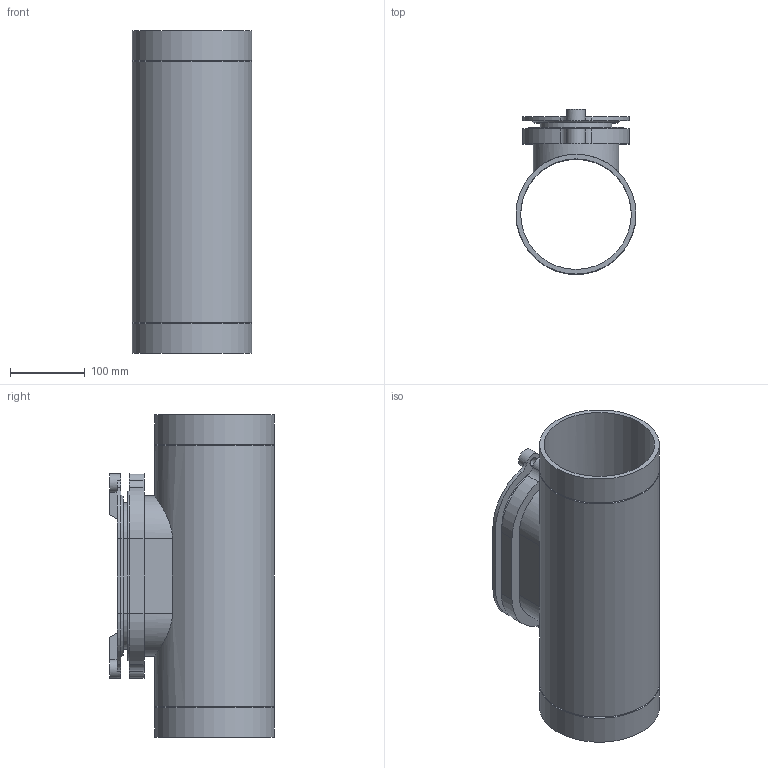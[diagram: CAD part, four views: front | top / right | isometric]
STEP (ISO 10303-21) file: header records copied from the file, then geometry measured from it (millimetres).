
FILE_DESCRIPTION(/* description */ (''),/* implementation_level */ '2;1');
FILE_NAME(/* name */ 'Z:\Geberit\Export\NewStep\369454.stp',/* time_stamp */ '2014-04-02T08:02:39+02:00',/* author */ ('Marco'),/* organization */ (''),/* preprocessor_version */ 'ST-DEVELOPER v15.2',/* originating_system */ 'Autodesk Inventor 2014',/* authorisation */ '');
FILE_SCHEMA (('AUTOMOTIVE_DESIGN { 1 0 10303 214 3 1 1 }'));
Length unit declared in the file: millimetre
Products named in the file (4): 853494; 853424; 853390; 369454
Bounding box: 160 x 220 x 430 mm (x, y, z)
Volume: 1826240.9 mm3; surface area: 627989.2 mm2
Topology: 3 solids, 3 shells, 121 faces, 314 edges, 202 vertices
Faces by surface type: plane 60, cylinder 49, cone 8, bspline 4
Full cylindrical faces by diameter (mm): 8.376 x2, 12 x2, 25 x2, 147.6 x1, 160 x3
Entity records: 4154 total; most frequent: CARTESIAN_POINT 1108, DIRECTION 628, ORIENTED_EDGE 604, EDGE_CURVE 298, AXIS2_PLACEMENT_3D 222, VERTEX_POINT 198, LINE 184, VECTOR 184
